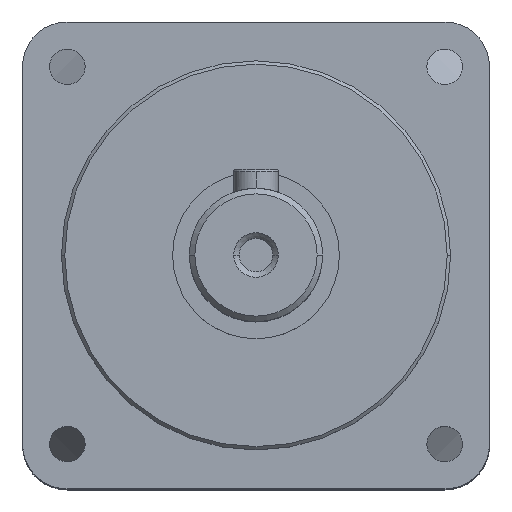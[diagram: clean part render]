
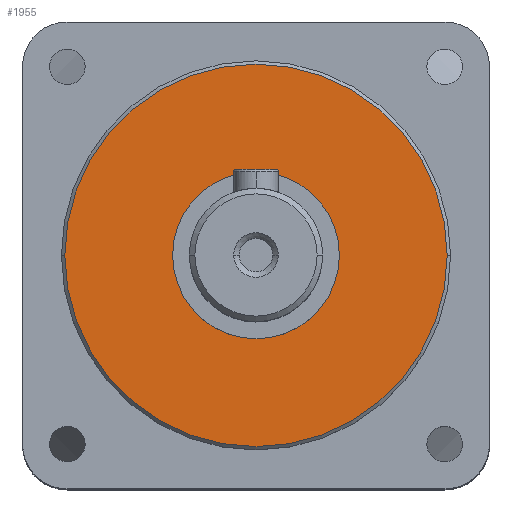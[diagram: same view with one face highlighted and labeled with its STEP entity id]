
A CAD part, top view. The second image highlights one B-rep face of the part: STEP entity #1955.
In plain terms, the highlighted planar face has unit normal (0, 0, 1).
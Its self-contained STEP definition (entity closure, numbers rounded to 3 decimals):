
#380 = DIRECTION ( 'NONE',  ( 1., 0., 0. ) ) ;
#381 = DIRECTION ( 'NONE',  ( 0., 0., 1. ) ) ;
#382 = CARTESIAN_POINT ( 'NONE',  ( 0., 0., 12. ) ) ;
#383 = AXIS2_PLACEMENT_3D ( 'NONE', #382, #381, #380 ) ;
#386 = CIRCLE ( 'NONE', #383, 17.2 ) ;
#465 = DIRECTION ( 'NONE',  ( 1., 0., 0. ) ) ;
#466 = DIRECTION ( 'NONE',  ( 0., 0., 1. ) ) ;
#467 = CARTESIAN_POINT ( 'NONE',  ( 0., 0., 12. ) ) ;
#469 = AXIS2_PLACEMENT_3D ( 'NONE', #467, #466, #465 ) ;
#470 = PLANE ( 'NONE',  #469 ) ;
#474 = FACE_OUTER_BOUND ( 'NONE', #1958, .T. ) ;
#1269 = VERTEX_POINT ( 'NONE', #2793 ) ;
#1271 = EDGE_CURVE ( 'NONE', #1273, #1269, #2791, .T. ) ;
#1273 = VERTEX_POINT ( 'NONE', #2782 ) ;
#1890 = EDGE_CURVE ( 'NONE', #1269, #1273, #386, .T. ) ;
#1891 = ORIENTED_EDGE ( 'NONE', *, *, #1271, .T. ) ;
#1955 = ADVANCED_FACE ( 'NONE', ( #474 ), #470, .T. ) ;
#1956 = ORIENTED_EDGE ( 'NONE', *, *, #1890, .T. ) ;
#1958 = EDGE_LOOP ( 'NONE', ( #1956, #1891 ) ) ;
#2782 = CARTESIAN_POINT ( 'NONE',  ( 17.2, 0., 12. ) ) ;
#2787 = DIRECTION ( 'NONE',  ( 1., 0., 0. ) ) ;
#2788 = DIRECTION ( 'NONE',  ( 0., 0., 1. ) ) ;
#2789 = CARTESIAN_POINT ( 'NONE',  ( 0., 0., 12. ) ) ;
#2790 = AXIS2_PLACEMENT_3D ( 'NONE', #2789, #2788, #2787 ) ;
#2791 = CIRCLE ( 'NONE', #2790, 17.2 ) ;
#2793 = CARTESIAN_POINT ( 'NONE',  ( -17.2, 0., 12. ) ) ;
